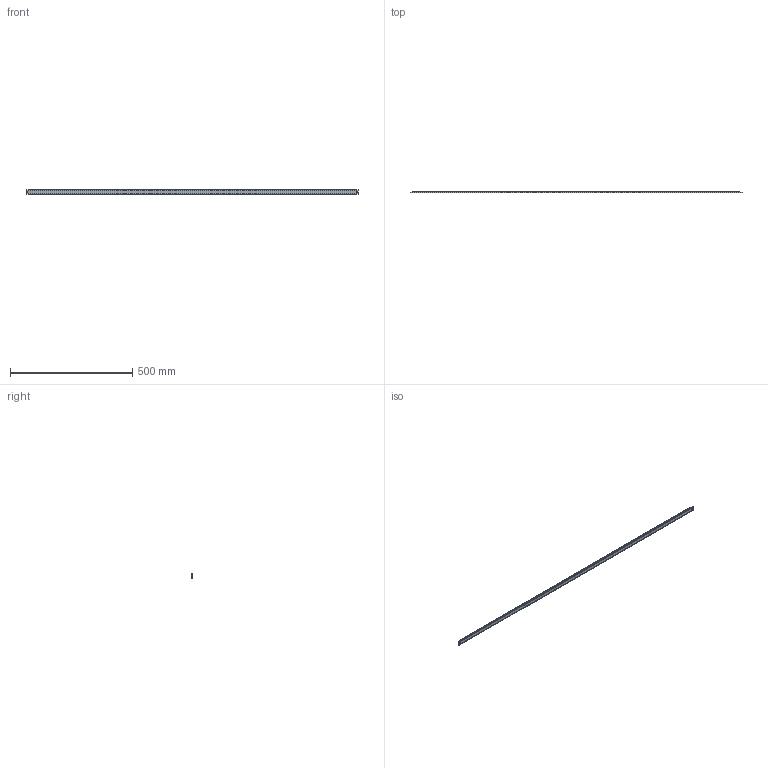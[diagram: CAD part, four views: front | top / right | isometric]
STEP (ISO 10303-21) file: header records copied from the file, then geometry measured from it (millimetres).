
FILE_DESCRIPTION (( 'STEP AP214' ), '1' );
FILE_NAME ('HLMScale.ScaleLength1360.STEP', '2023-02-07T05:55:20', ( '' ), ( '' ), 'SwSTEP 2.0', 'SolidWorks 2020', '' );
FILE_SCHEMA (( 'AUTOMOTIVE_DESIGN' ));
Length unit declared in the file: millimetre
Products named in the file (1): HLMScale.ScaleLength1360
Bounding box: 1360 x 6.08 x 18 mm (x, y, z)
Volume: 137075.4 mm3; surface area: 75157.8 mm2
Topology: 1 solids, 1 shells, 56 faces, 149 edges, 98 vertices
Faces by surface type: plane 31, cylinder 25
Entity records: 1857 total; most frequent: CARTESIAN_POINT 412, ORIENTED_EDGE 298, DIRECTION 285, EDGE_CURVE 149, VECTOR 103, LINE 103, VERTEX_POINT 98, AXIS2_PLACEMENT_3D 91
